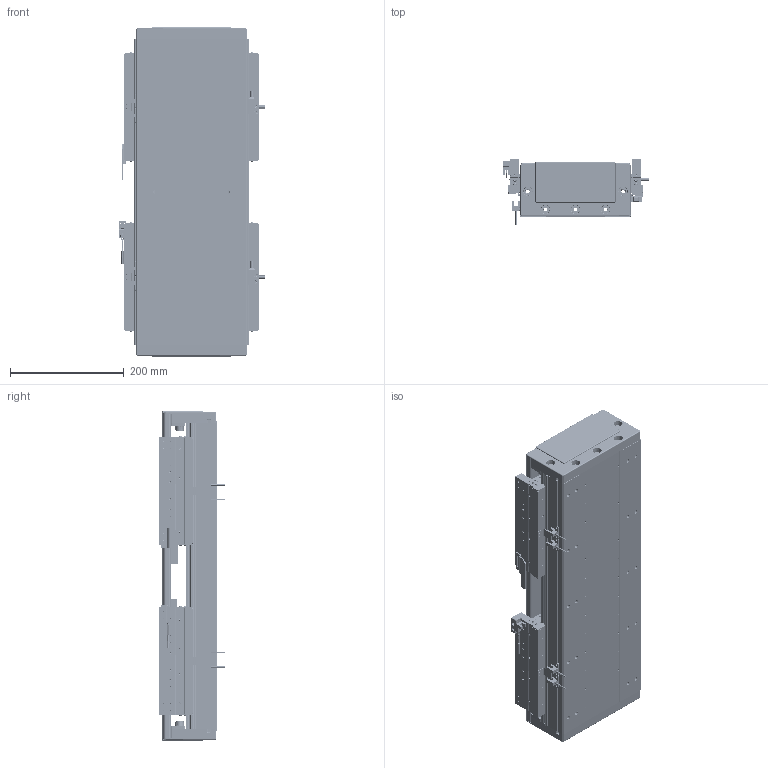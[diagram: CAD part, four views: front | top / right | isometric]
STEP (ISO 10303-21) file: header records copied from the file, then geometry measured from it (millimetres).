
FILE_DESCRIPTION (( 'STEP AP203' ), '1' );
FILE_NAME ('DA-C195-2-C2-T80-C010-0.2 眻盄萇儂.STEP', '2025-08-14T01:43:34', ( '' ), ( '' ), 'SwSTEP 2.0', 'SolidWorks 2019', '' );
FILE_SCHEMA (( 'CONFIG_CONTROL_DESIGN' ));
Length unit declared in the file: millimetre
Products named in the file (16): IU-CU195-L-00 菁釱(L540); LMT黍杅芛; DA195-DG-H-00  端盖（压铸镂空版）; IU-CU195-L 菁釱絳寢; DKW168-HXJ-ZJ-00 笢潔滅袉砎蝶; PM-T45ㄗ侂狟ㄘ; MS200 棠掑喜S315-T240; 66156-0001-005-00 光电感应片(默认); DKW-KGZ-ZJ-00 中间光电开关支架; DA95-HXJ-00 遣喳砎蝶; DKW-GYP-ZJ-00 笢潔嫖萇覜茼え; 葩璃 DA95-GT-T-00; PM-Y65嫖萇羲壽郪璃; 66156-0001-003-00 裔啣; DA-C195-2-C2-T80-C010-0.2 眻盄萇儂; CU195-C2賑輸-俋楷
Assembly tree (28 placements, depth 3):
  DA-C195-2-C2-T80-C010-0.2 眻盄萇儂
    IU-CU195-L 菁釱絳寢
      IU-CU195-L-00 菁釱(L540)
      葩璃 DA95-GT-T-00  x4
    LMT黍杅芛  x2
    MS200 棠掑喜S315-T240
    PM-T45ㄗ侂狟ㄘ  x4
    66156-0001-005-00 光电感应片(默认)  x2
    DA195-DG-H-00  端盖（压铸镂空版）  x2
    DA95-HXJ-00 遣喳砎蝶  x4
    PM-Y65嫖萇羲壽郪璃
    66156-0001-003-00 裔啣
    DKW168-HXJ-ZJ-00 笢潔滅袉砎蝶
    DKW-GYP-ZJ-00 笢潔嫖萇覜茼え
    DKW-KGZ-ZJ-00 中间光电开关支架
    CU195-C2賑輸-俋楷  x2
Bounding box: 258.2 x 115.6 x 580 mm (x, y, z)
Volume: 6024030.6 mm3; surface area: 1623746.2 mm2
Topology: 106 solids, 242 shells, 7628 faces, 18816 edges, 11379 vertices
Faces by surface type: cylinder 2962, plane 2850, cone 946, bspline 718, torus 80, sphere 72
Entity records: 143069 total; most frequent: CARTESIAN_POINT 42576, ORIENTED_EDGE 20634, DIRECTION 20146, EDGE_CURVE 10317, AXIS2_PLACEMENT_3D 7319, VERTEX_POINT 6494, VECTOR 5508, LINE 5508
